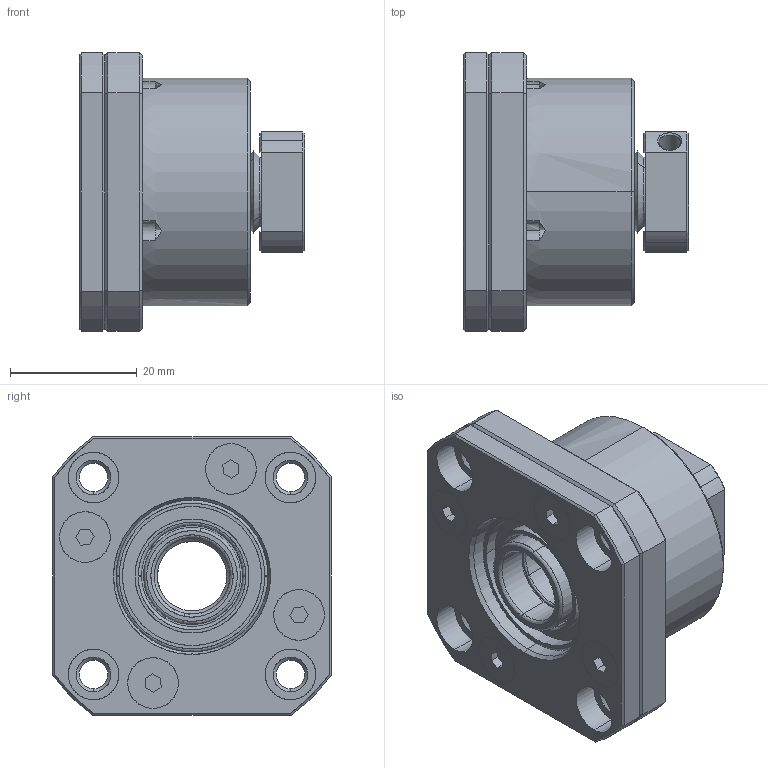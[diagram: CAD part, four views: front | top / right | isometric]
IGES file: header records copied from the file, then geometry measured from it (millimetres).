
Start section: SolidWorks IGES file using analytic representation for surfaces
Global section: file name: 4HC:\Users\117\Desktop\FK12組合B.IGS; native system: SolidWorks 2018; preprocessor: SolidWorks 2018; author: 117; date: 210929.092659; units: millimetre
Bounding box: 35.6 x 44 x 44 mm (x, y, z)
Surface area: 13514.5 mm2 (no closed solid volume)
Topology: 0 solids, 0 shells, 222 faces, 3192 edges, 3192 vertices
Faces by surface type: revolution 119, bspline 103
